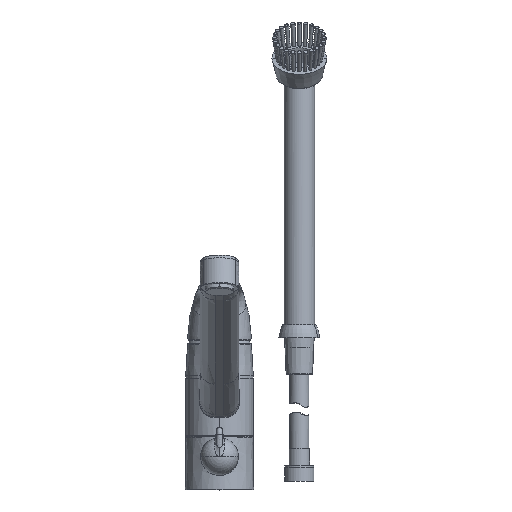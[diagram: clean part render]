
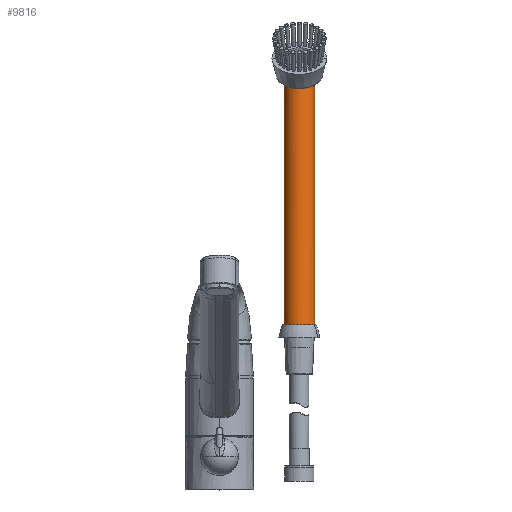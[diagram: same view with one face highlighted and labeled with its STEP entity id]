
A CAD part, top view. The second image highlights one B-rep face of the part: STEP entity #9816.
In plain terms, the highlighted cylindrical face has radius 12 mm (diameter 24 mm), a partial arc.
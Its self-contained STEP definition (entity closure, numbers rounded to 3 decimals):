
#47 = DIRECTION ( 'NONE',  ( 0., 1., 0. ) ) ;
#99 = VERTEX_POINT ( 'NONE', #25564 ) ;
#629 = CARTESIAN_POINT ( 'NONE',  ( 156.929, 581.735, 423.853 ) ) ;
#683 = EDGE_LOOP ( 'NONE', ( #20894, #19778, #14551, #27765 ) ) ;
#876 = AXIS2_PLACEMENT_3D ( 'NONE', #27269, #47, #27371 ) ;
#1125 = VERTEX_POINT ( 'NONE', #20359 ) ;
#1790 = FACE_OUTER_BOUND ( 'NONE', #683, .T. ) ;
#2738 = EDGE_CURVE ( 'NONE', #99, #1125, #9162, .T. ) ;
#5534 = CARTESIAN_POINT ( 'NONE',  ( 144.929, 581.735, 423.853 ) ) ;
#6327 = VECTOR ( 'NONE', #27868, 1000. ) ;
#6572 = EDGE_CURVE ( 'NONE', #27119, #99, #21515, .T. ) ;
#6965 = CARTESIAN_POINT ( 'NONE',  ( 132.929, 580.515, 423.853 ) ) ;
#7061 = CIRCLE ( 'NONE', #876, 12. ) ;
#8121 = CARTESIAN_POINT ( 'NONE',  ( 132.929, 581.735, 423.853 ) ) ;
#9162 = LINE ( 'NONE', #8121, #28069 ) ;
#9246 = VERTEX_POINT ( 'NONE', #18028 ) ;
#9651 = CARTESIAN_POINT ( 'NONE',  ( 156.929, 563.032, 447.853 ) ) ;
#9816 = ADVANCED_FACE ( 'NONE', ( #1790 ), #15713, .T. ) ;
#10439 = DIRECTION ( 'NONE',  ( 0., -1., 0. ) ) ;
#14551 = ORIENTED_EDGE ( 'NONE', *, *, #2738, .T. ) ;
#14813 = DIRECTION ( 'NONE',  ( -1., 0., 0. ) ) ;
#15713 = CYLINDRICAL_SURFACE ( 'NONE', #22797, 12. ) ;
#16518 = CARTESIAN_POINT ( 'NONE',  ( 132.929, 563.032, 447.853 ) ) ;
#18028 = CARTESIAN_POINT ( 'NONE',  ( 156.929, 375.735, 423.853 ) ) ;
#18503 = CARTESIAN_POINT ( 'NONE',  ( 156.929, 580.515, 423.853 ) ) ;
#19778 = ORIENTED_EDGE ( 'NONE', *, *, #6572, .T. ) ;
#20359 = CARTESIAN_POINT ( 'NONE',  ( 132.929, 375.735, 423.853 ) ) ;
#20489 = EDGE_CURVE ( 'NONE', #1125, #9246, #7061, .T. ) ;
#20675 = EDGE_CURVE ( 'NONE', #27119, #9246, #23113, .T. ) ;
#20894 = ORIENTED_EDGE ( 'NONE', *, *, #20675, .F. ) ;
#21515 =( BOUNDED_CURVE ( )  B_SPLINE_CURVE ( 3, ( #18503, #9651, #16518, #6965 ),
 .UNSPECIFIED., .F., .F. ) 
 B_SPLINE_CURVE_WITH_KNOTS ( ( 4, 4 ),
 ( 4.712, 7.854 ),
 .UNSPECIFIED. ) 
 CURVE ( )  GEOMETRIC_REPRESENTATION_ITEM ( )  RATIONAL_B_SPLINE_CURVE ( ( 1., 0.333, 0.333, 1. ) ) 
 REPRESENTATION_ITEM ( '' )  );
#22797 = AXIS2_PLACEMENT_3D ( 'NONE', #5534, #28460, #14813 ) ;
#23113 = LINE ( 'NONE', #629, #6327 ) ;
#25564 = CARTESIAN_POINT ( 'NONE',  ( 132.929, 580.515, 423.853 ) ) ;
#26812 = CARTESIAN_POINT ( 'NONE',  ( 156.929, 580.515, 423.853 ) ) ;
#27119 = VERTEX_POINT ( 'NONE', #26812 ) ;
#27269 = CARTESIAN_POINT ( 'NONE',  ( 144.929, 375.735, 423.853 ) ) ;
#27371 = DIRECTION ( 'NONE',  ( 1., 0., 0. ) ) ;
#27765 = ORIENTED_EDGE ( 'NONE', *, *, #20489, .T. ) ;
#27868 = DIRECTION ( 'NONE',  ( 0., -1., 0. ) ) ;
#28069 = VECTOR ( 'NONE', #10439, 1000. ) ;
#28460 = DIRECTION ( 'NONE',  ( 0., -1., 0. ) ) ;
